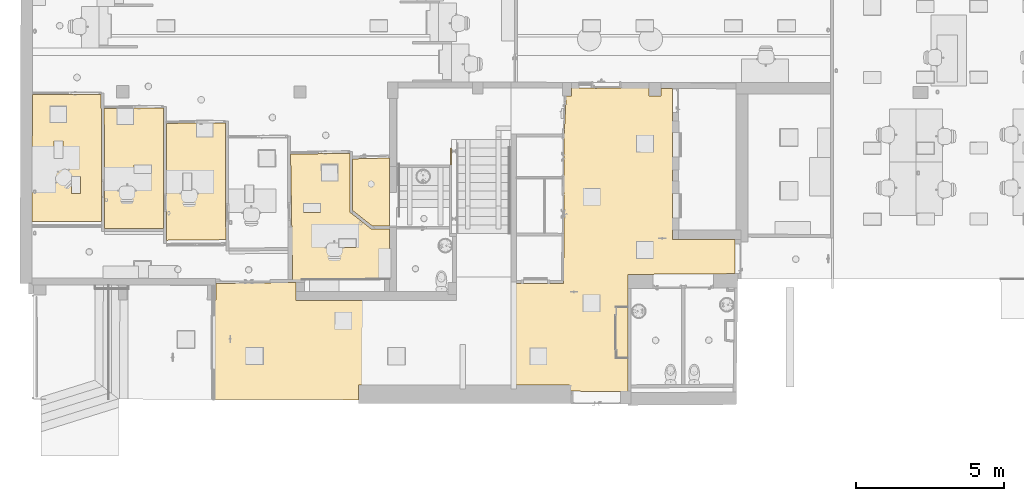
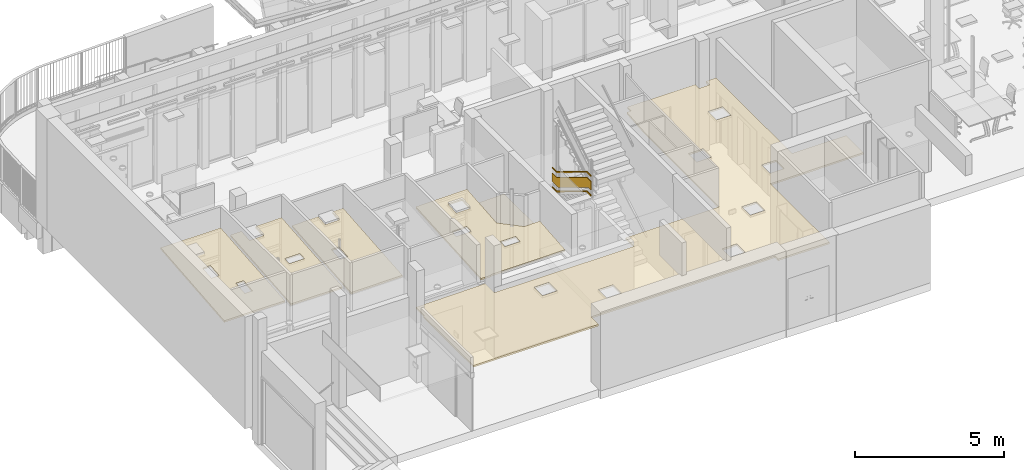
# One storey, part 58 of 128: 6 coverings, 1 railing, 1 element without a shape of its own.
"""IFC2X3 building model written with IfcOpenShell, lengths in metres."""

from ifc_helpers import new_model, entity, si_unit, converted_unit, derived_unit, direction, frame, origin, place, context, subcontext, project, spatial, faceted_brep, material, material_list, layer, layer_set, layer_usage, type_object, element, aggregate, save


model = new_model("IFC2X3")

# Units and contexts
model_context = context("Model", 3, precision=1e-05, world=origin(), true_north=direction((6.123031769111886e-17, 1.0)))
body_context = subcontext(model_context, "Body", "Model", "MODEL_VIEW")
ifc_project = project(units=[si_unit("LENGTHUNIT", "METRE"), si_unit("AREAUNIT", "SQUARE_METRE"), converted_unit("PLANEANGLEUNIT", "DEGREE", entity("IfcPlaneAngleMeasure", 0.017453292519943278), si_unit("PLANEANGLEUNIT", "RADIAN"), dimensions=[0, 0, 0, 0, 0, 0, 0]), derived_unit("THERMALTRANSMITTANCEUNIT", [(si_unit("MASSUNIT", "GRAM", prefix="KILO"), 1), (si_unit("THERMODYNAMICTEMPERATUREUNIT", "KELVIN"), -1), (si_unit("TIMEUNIT", "SECOND"), -3)])], contexts=[model_context])

# Site, building, storey
site_placement = place(None, origin())
site = spatial("IfcSite", under=ifc_project, at=site_placement, Name="Default", CompositionType="ELEMENT")
building_placement = place(site_placement, origin())
building = spatial("IfcBuilding", under=site, at=building_placement, CompositionType="ELEMENT")
storey_placement = place(building_placement, origin())
storey = spatial("IfcBuildingStorey", under=building, at=storey_placement, Name="00_RDC CAF", CompositionType="ELEMENT", Elevation=2.4982504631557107e-13)

# Coverings
ifc_material_1 = material(Name="ARC - FP - Blanc")
ifc_layer_1 = layer(ifc_material_1, 0.02)
ifc_material_2 = material(Name="ARC - FP - Trame 600 x 600")
ifc_layer_2 = layer(ifc_material_2, 0.05)
ifc_layer_set = layer_set([ifc_layer_1, ifc_layer_2], Name="Plafond composé:FP_Dalle-600X600_70mm")
ifc_layer_usage_1 = layer_usage(ifc_layer_set, "AXIS3", "NEGATIVE", 0.07)
covering_type = type_object("IfcCoveringType", Name="Plafond composé:FP_Dalle-600X600_70mm", PredefinedType="CEILING")
covering_1_placement = place(storey_placement, frame((6.666784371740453, 132.16264719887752, 2.954349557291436)))
element("IfcCovering", 1, at=covering_1_placement, inside=storey, type_object=covering_type, material=ifc_layer_usage_1, Name="Plafond composé:FP_Dalle-600X600_70mm", ObjectType="Plafond composé:FP_Dalle-600X600_70mm", PredefinedType="CEILING", context=body_context, shape_type="Brep", body=[
    faceted_brep([(2.3535247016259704, 0.0, 0.07029960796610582), (2.3417893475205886, 4.294149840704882, 0.4567730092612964), (0.012469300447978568, 4.301870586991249, 0.45745136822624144), (0.0, 0.0, 0.07028292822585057), (0.7410134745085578, 2.7300740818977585, 0.3159948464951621), (1.0410134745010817, 2.7300738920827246, 0.31599695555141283), (1.041013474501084, 2.1424489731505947, 0.2631107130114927), (0.7410134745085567, 2.1424491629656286, 0.26310860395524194), (1.3410134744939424, 0.9472791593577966, 0.1555475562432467), (1.3410134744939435, 1.5349040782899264, 0.2084337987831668), (1.6410134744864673, 1.5349038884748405, 0.20843590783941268), (1.6410134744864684, 0.9472789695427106, 0.15554966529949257), (2.3417893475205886, 4.294149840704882, 0.38649008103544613), (2.3535247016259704, 0.0, 1.6679740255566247e-05), (0.0, 0.0, 0.0), (0.012469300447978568, 4.301870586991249, 0.3871684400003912), (1.0410139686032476, 2.7363485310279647, 0.246278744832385), (0.7410139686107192, 2.7363487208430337, 0.2462766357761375), (0.7410139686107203, 2.148723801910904, 0.1933903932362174), (1.0410139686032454, 2.148723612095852, 0.19339250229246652), (1.3410139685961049, 1.5411787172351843, 0.13871558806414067), (1.341013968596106, 0.9535537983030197, 0.0858293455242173), (1.641013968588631, 0.9535536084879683, 0.08583145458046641), (1.641013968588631, 1.5411785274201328, 0.13871769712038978)], [[[0, 1, 2, 3], [4, 5, 6, 7], [8, 9, 10, 11]], [[12, 13, 14, 15], [16, 17, 18, 19], [20, 21, 22, 23]], [[1, 0, 13, 12]], [[2, 1, 12, 15]], [[3, 2, 15, 14]], [[0, 3, 14, 13]], [[4, 17, 16, 5]], [[17, 4, 7, 18]], [[5, 16, 19, 6]], [[18, 7, 6, 19]], [[8, 21, 20, 9]], [[9, 20, 23, 10]], [[10, 23, 22, 11]], [[21, 8, 11, 22]]]),
])
ifc_layer_usage_2 = layer_usage(ifc_layer_set, "AXIS3", "NEGATIVE", 0.07)
covering_2_placement = place(storey_placement, frame((9.109854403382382, 131.9222253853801, 2.93251475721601)))
element("IfcCovering", 2, at=covering_2_placement, inside=storey, type_object=covering_type, material=ifc_layer_usage_2, Name="Plafond composé:FP_Dalle-600X600_70mm", ObjectType="Plafond composé:FP_Dalle-600X600_70mm", PredefinedType="CEILING", context=body_context, shape_type="Brep", body=[
    faceted_brep([(0.0, 4.06608592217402, 0.4367243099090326), (0.011101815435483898, 0.003757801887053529, 0.07111341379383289), (2.0126055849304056, 0.0, 0.07028292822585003), (2.001438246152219, 4.086304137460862, 0.4380516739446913), (0.9868035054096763, 4.076054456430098, 0.4373787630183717), (0.986754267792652, 3.529637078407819, 0.38820139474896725), (0.4367542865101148, 3.5296741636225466, 0.3883400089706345), (0.4368030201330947, 4.070498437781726, 0.437013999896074), (1.6059716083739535, 1.8650399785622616, 0.23823591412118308), (1.015971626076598, 1.8650270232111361, 0.23837986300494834), (1.0159716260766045, 2.163819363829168, 0.26527107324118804), (1.6059716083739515, 2.16383231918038, 0.2651271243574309), (0.011101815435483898, 0.003757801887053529, 0.0008304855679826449), (0.0, 4.06608592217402, 0.36644138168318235), (0.4367853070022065, 4.070498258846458, 0.3667310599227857), (0.4367371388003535, 3.5359487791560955, 0.31862179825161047), (0.9867371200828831, 3.5359116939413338, 0.31848318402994), (0.986785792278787, 4.076054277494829, 0.3670958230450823), (2.001438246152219, 4.086304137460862, 0.36776874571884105), (2.0126055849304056, 0.0, 0.0), (1.0159544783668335, 1.8713016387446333, 0.16866165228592), (1.605954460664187, 1.871314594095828, 0.16851770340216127), (1.6059544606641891, 2.1701069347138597, 0.19540891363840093), (1.0159544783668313, 2.170093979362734, 0.19555286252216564)], [[[0, 1, 2, 3, 4, 5, 6, 7], [8, 9, 10, 11]], [[12, 13, 14, 15, 16, 17, 18, 19], [20, 21, 22, 23]], [[1, 0, 13, 12]], [[2, 1, 12, 19]], [[3, 2, 19, 18]], [[13, 0, 7, 14]], [[5, 16, 15, 6]], [[6, 15, 14, 7]], [[16, 5, 4, 17]], [[8, 21, 20, 9]], [[9, 20, 23, 10]], [[10, 23, 22, 11]], [[21, 8, 11, 22]], [[3, 18, 17, 4]]]),
])
ifc_layer_usage_3 = layer_usage(ifc_layer_set, "AXIS3", "NEGATIVE", 0.07)
covering_3_placement = place(storey_placement, frame((17.518978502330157, 132.00700605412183, 2.619999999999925)))
element("IfcCovering", 3, at=covering_3_placement, inside=storey, type_object=covering_type, material=ifc_layer_usage_3, Name="Plafond composé:FP_Dalle-600X600_70mm", ObjectType="Plafond composé:FP_Dalle-600X600_70mm", PredefinedType="CEILING", context=body_context, shape_type="Brep", body=[
    faceted_brep([(1.251735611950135, 2.3102790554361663, 0.07000000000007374), (0.0, 2.277970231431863, 0.07000000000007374), (0.0, 0.5291632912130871, 0.07000000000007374), (0.669347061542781, 0.0, 0.07000000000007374), (1.2517356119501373, 0.008742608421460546, 0.07000000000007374), (0.0, 0.5291632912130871, 0.0), (0.5967846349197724, 1.3212251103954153, 0.0), (0.6252547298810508, 1.3174769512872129, 0.0), (0.5702547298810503, 1.3322141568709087, 0.0), (0.669347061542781, 0.0, 0.0), (0.5474729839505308, 1.3496952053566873, 0.0), (0.529991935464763, 1.3724769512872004, 0.0), (0.5190028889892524, 1.3990068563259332, 0.0), (0.5152547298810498, 1.4274769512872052, 0.0), (0.0, 2.277970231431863, 0.0), (0.5190028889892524, 1.455947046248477, 0.0), (0.529991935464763, 1.48247695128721, 0.0), (0.5474729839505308, 1.5052586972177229, 0.0), (0.5702547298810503, 1.5227397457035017, 0.0), (0.5967846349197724, 1.5337287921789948, 0.0), (0.6252547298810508, 1.5374769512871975, 0.0), (1.251735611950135, 2.3102790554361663, 0.0), (0.653724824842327, 1.5337287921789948, 0.0), (0.6802547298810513, 1.5227397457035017, 0.0), (0.7030364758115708, 1.5052586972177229, 0.0), (0.7205175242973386, 1.48247695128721, 0.0), (0.7315065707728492, 1.455947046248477, 0.0), (0.7352547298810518, 1.4274769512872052, 0.0), (0.7315065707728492, 1.3990068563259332, 0.0), (1.2517356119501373, 0.008742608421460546, 0.0), (0.6802547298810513, 1.3322141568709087, 0.0), (0.7030364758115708, 1.3496952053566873, 0.0), (0.7205175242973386, 1.3724769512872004, 0.0), (0.653724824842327, 1.3212251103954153, 0.0), (0.6802547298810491, 1.3322141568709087, 0.04999999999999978), (0.653724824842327, 1.3212251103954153, 0.04999999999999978), (0.6252547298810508, 1.3174769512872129, 0.04999999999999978), (0.5967846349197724, 1.3212251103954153, 0.04999999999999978), (0.5702547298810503, 1.3322141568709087, 0.04999999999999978), (0.5474729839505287, 1.3496952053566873, 0.04999999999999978), (0.5299919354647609, 1.3724769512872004, 0.04999999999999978), (0.5190028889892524, 1.3990068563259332, 0.04999999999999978), (0.5152547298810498, 1.4274769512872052, 0.04999999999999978), (0.5190028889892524, 1.455947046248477, 0.04999999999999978), (0.5299919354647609, 1.48247695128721, 0.04999999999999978), (0.5474729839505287, 1.5052586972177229, 0.04999999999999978), (0.5702547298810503, 1.5227397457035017, 0.04999999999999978), (0.5967846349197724, 1.5337287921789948, 0.04999999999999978), (0.6252547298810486, 1.5374769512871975, 0.04999999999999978), (0.653724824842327, 1.5337287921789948, 0.04999999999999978), (0.6802547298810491, 1.5227397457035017, 0.04999999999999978), (0.7030364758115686, 1.5052586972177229, 0.04999999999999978), (0.7205175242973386, 1.48247695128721, 0.04999999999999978), (0.731506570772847, 1.455947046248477, 0.04999999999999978), (0.7352547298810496, 1.4274769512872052, 0.04999999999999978), (0.731506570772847, 1.3990068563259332, 0.04999999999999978), (0.7205175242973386, 1.3724769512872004, 0.04999999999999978), (0.7030364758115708, 1.3496952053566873, 0.04999999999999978)], [[[0, 1, 2, 3, 4]], [[5, 6, 7]], [[6, 5, 8]], [[5, 7, 9]], [[10, 8, 5]], [[11, 10, 5]], [[12, 11, 5]], [[5, 13, 12]], [[13, 5, 14]], [[15, 13, 14]], [[16, 15, 14]], [[14, 17, 16]], [[17, 14, 18]], [[19, 18, 14]], [[14, 20, 19]], [[20, 14, 21]], [[22, 20, 21]], [[21, 23, 22]], [[23, 21, 24]], [[25, 24, 21]], [[25, 21, 26]], [[27, 26, 21]], [[27, 21, 28]], [[29, 28, 21]], [[29, 9, 30]], [[30, 31, 29]], [[32, 28, 29]], [[31, 32, 29]], [[33, 9, 7]], [[30, 9, 33]], [[2, 1, 14, 5]], [[3, 2, 5, 9]], [[4, 3, 9, 29]], [[0, 4, 29, 21]], [[1, 0, 21, 14]], [[34, 35, 36, 37, 38, 39, 40, 41, 42, 43, 44, 45, 46, 47, 48, 49, 50, 51, 52, 53, 54, 55, 56, 57]], [[42, 13, 15, 43]], [[43, 15, 16, 44]], [[46, 45, 17, 18]], [[17, 45, 44, 16]], [[47, 46, 18, 19]], [[47, 19, 20, 48]], [[48, 20, 22, 49]], [[49, 22, 23, 50]], [[24, 51, 50, 23]], [[25, 52, 51, 24]], [[27, 54, 53, 26]], [[25, 26, 53, 52]], [[54, 27, 28, 55]], [[55, 28, 32, 56]], [[34, 57, 31, 30]], [[31, 57, 56, 32]], [[35, 34, 30, 33]], [[35, 33, 7, 36]], [[6, 37, 36, 7]], [[41, 40, 11, 12]], [[39, 10, 11, 40]], [[41, 12, 13, 42]], [[8, 38, 37, 6]], [[8, 10, 39, 38]]]),
])
ifc_layer_usage_4 = layer_usage(ifc_layer_set, "AXIS3", "NEGATIVE", 0.07)
covering_4_placement = place(storey_placement, frame((15.41532972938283, 130.18269728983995, 2.800552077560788)))
element("IfcCovering", 4, at=covering_4_placement, inside=storey, type_object=covering_type, material=ifc_layer_usage_4, Name="Plafond composé:FP_Dalle-600X600_70mm", ObjectType="Plafond composé:FP_Dalle-600X600_70mm", PredefinedType="CEILING", context=body_context, shape_type="Brep", body=[
    faceted_brep([(2.0036487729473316, 4.292260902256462, 0.45658640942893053), (0.0, 4.262650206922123, 0.4539214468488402), (0.07115374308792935, 0.0, 0.07028292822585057), (0.4418615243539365, 0.002326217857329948, 0.07049228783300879), (0.4418615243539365, 0.02633908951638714, 0.07265344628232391), (3.355384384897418, 0.04336298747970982, 0.07418559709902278), (3.355384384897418, 1.7330401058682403, 0.22625653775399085), (2.7389035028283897, 1.7237857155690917, 0.2254236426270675), (2.0036487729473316, 2.3050533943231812, 0.27773773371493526), (2.221903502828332, 1.097122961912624, 0.1690239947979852), (1.631903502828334, 1.0971229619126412, 0.1690239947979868), (1.6319035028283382, 1.3959152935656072, 0.19591530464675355), (2.221903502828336, 1.3959152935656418, 0.1959153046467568), (1.0205922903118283, 2.2935982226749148, 0.2767067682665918), (0.4305922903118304, 2.2935982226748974, 0.2767067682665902), (0.4305922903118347, 2.5923905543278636, 0.30359807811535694), (1.0205922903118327, 2.592390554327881, 0.30359807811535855), (1.047259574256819, 3.3611943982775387, 0.3727904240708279), (1.0458088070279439, 3.9089784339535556, 0.4220909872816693), (1.5958068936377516, 3.910423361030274, 0.4222210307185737), (1.597257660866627, 3.3626393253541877, 0.3729204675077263), (0.0, 4.262650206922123, 0.38363851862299), (2.0036487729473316, 4.292260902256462, 0.3863034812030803), (2.0036487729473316, 2.3050533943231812, 0.20745480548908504), (2.7389035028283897, 1.7237857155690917, 0.15514071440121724), (3.355384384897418, 1.7330401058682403, 0.1559736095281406), (3.355384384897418, 0.04336298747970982, 0.0039026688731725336), (0.4418615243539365, 0.02633908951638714, 0.0023705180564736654), (0.4418615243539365, 0.002326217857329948, 0.00020935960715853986), (0.07115374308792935, 0.0, 0.0), (1.631903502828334, 1.1033976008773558, 0.0993057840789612), (2.22190350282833, 1.1033976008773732, 0.09930578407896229), (2.2219035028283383, 1.4021899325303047, 0.12619709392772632), (1.6319035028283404, 1.4021899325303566, 0.1261970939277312), (0.4305922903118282, 2.2998728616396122, 0.206988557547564), (1.0205922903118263, 2.2998728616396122, 0.206988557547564), (1.0205922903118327, 2.598665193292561, 0.23387986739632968), (0.4305922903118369, 2.5986651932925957, 0.23387986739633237), (1.0458088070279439, 3.915253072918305, 0.35237277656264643), (1.0472595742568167, 3.367469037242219, 0.30307221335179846), (1.5972576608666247, 3.36891396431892, 0.3032022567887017), (1.5958068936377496, 3.9166979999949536, 0.3525028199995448)], [[[0, 1, 2, 3, 4, 5, 6, 7, 8], [9, 10, 11, 12], [13, 14, 15, 16], [17, 18, 19, 20]], [[21, 22, 23, 24, 25, 26, 27, 28, 29], [30, 31, 32, 33], [34, 35, 36, 37], [38, 39, 40, 41]], [[1, 0, 22, 21]], [[2, 1, 21, 29]], [[3, 2, 29, 28]], [[5, 4, 27, 26]], [[6, 5, 26, 25]], [[7, 6, 25, 24]], [[8, 7, 24, 23]], [[0, 8, 23, 22]], [[9, 31, 30, 10]], [[10, 30, 33, 11]], [[11, 33, 32, 12]], [[31, 9, 12, 32]], [[13, 35, 34, 14]], [[14, 34, 37, 15]], [[15, 37, 36, 16]], [[35, 13, 16, 36]], [[17, 39, 38, 18]], [[18, 38, 41, 19]], [[19, 41, 40, 20]], [[39, 17, 20, 40]], [[4, 3, 28, 27]]]),
])
ifc_layer_usage_5 = layer_usage(ifc_layer_set, "AXIS3", "NEGATIVE", 0.07)
covering_5_placement = place(storey_placement, frame((11.212733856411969, 131.53194031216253, 2.8970224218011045)))
element("IfcCovering", 5, at=covering_5_placement, inside=storey, type_object=covering_type, material=ifc_layer_usage_5, Name="Plafond composé:FP_Dalle-600X600_70mm", ObjectType="Plafond composé:FP_Dalle-600X600_70mm", PredefinedType="CEILING", context=body_context, shape_type="Brep", body=[
    faceted_brep([(2.0110597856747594, 0.019555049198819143, 0.0720428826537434), (1.9973862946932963, 3.975295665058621, 0.4280595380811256), (1.5751580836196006, 3.97103038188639, 0.4276756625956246), (1.57521402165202, 3.4940415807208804, 0.3847466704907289), (1.0252140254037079, 3.4939775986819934, 0.384740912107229), (1.0251587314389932, 3.9654743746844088, 0.42717562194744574), (0.0, 3.9551183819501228, 0.4262435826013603), (0.010808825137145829, 0.0, 0.07028292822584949), (0.5550401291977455, 1.6848881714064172, 0.2219228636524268), (0.5550401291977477, 2.2725130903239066, 0.2748091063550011), (0.8550401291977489, 2.272513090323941, 0.27480910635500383), (0.8550401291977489, 1.6848881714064, 0.22192286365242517), (1.9973862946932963, 3.975295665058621, 0.3577766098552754), (2.0110597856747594, 0.019555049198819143, 0.001759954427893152), (0.010808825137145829, 0.0, 0.0), (0.0, 3.9551183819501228, 0.35596065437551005), (1.0251594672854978, 3.9654743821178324, 0.35689269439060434), (1.02521402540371, 3.500252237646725, 0.31502270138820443), (1.5752140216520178, 3.500316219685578, 0.31502845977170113), (1.5751588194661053, 3.971030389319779, 0.35739273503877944), (0.5550401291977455, 2.2787877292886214, 0.20509089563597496), (0.5550401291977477, 1.6911628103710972, 0.15220465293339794), (0.8550401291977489, 1.6911628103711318, 0.15220465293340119), (0.8550401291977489, 2.2787877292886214, 0.20509089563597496)], [[[0, 1, 2, 3, 4, 5, 6, 7], [8, 9, 10, 11]], [[12, 13, 14, 15, 16, 17, 18, 19], [20, 21, 22, 23]], [[1, 0, 13, 12]], [[1, 12, 19, 2]], [[8, 21, 20, 9]], [[9, 20, 23, 10]], [[10, 23, 22, 11]], [[21, 8, 11, 22]], [[3, 18, 17, 4]], [[4, 17, 16, 5]], [[18, 3, 2, 19]], [[7, 6, 15, 14]], [[0, 7, 14, 13]], [[16, 15, 6, 5]]]),
])
ifc_layer_usage_6 = layer_usage(ifc_layer_set, "AXIS3", "NEGATIVE", 0.07)
covering_6_placement = place(storey_placement, frame((12.856391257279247, 126.13424016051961, 2.5999999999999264)))
element("IfcCovering", 6, at=covering_6_placement, inside=storey, type_object=covering_type, material=ifc_layer_usage_6, Name="Plafond composé:FP_Dalle-600X600_70mm", ObjectType="Plafond composé:FP_Dalle-600X600_70mm", PredefinedType="CEILING", context=body_context, shape_type="Brep", body=[
    faceted_brep([(4.850788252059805, 0.5048378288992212, 0.07000000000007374), (11.988999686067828, 0.4975189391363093, 0.07000000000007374), (11.988786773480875, 0.2898624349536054, 0.07000000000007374), (13.971984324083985, 0.28489793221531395, 0.07000000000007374), (13.971984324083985, 4.241648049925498, 0.07000000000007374), (17.59187433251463, 4.266465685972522, 0.07000000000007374), (17.591874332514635, 5.421281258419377, 0.07000000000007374), (15.489352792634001, 5.421281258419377, 0.07000000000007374), (15.489352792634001, 10.529221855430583, 0.07000000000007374), (15.091258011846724, 10.529221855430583, 0.07000000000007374), (15.090399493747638, 10.280612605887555, 0.07000000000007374), (14.690383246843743, 10.281993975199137, 0.07000000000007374), (14.691278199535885, 10.541153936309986, 0.07000000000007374), (12.0582510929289, 10.541153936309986, 0.07000000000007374), (12.0582510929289, 10.278544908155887, 0.07000000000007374), (11.885674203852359, 10.278544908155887, 0.07000000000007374), (11.818351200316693, 8.993945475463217, 0.07000000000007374), (11.799054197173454, 3.933999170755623, 0.07000000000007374), (8.17198780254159, 3.9339991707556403, 0.07000000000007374), (8.17198780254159, 3.3561157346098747, 0.07000000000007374), (2.7508414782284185, 3.3561157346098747, 0.07000000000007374), (2.7508414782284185, 3.972236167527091, 0.07000000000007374), (0.04123992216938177, 3.9339295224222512, 0.07000000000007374), (0.039740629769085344, 3.370335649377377, 0.07000000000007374), (0.0, 3.370441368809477, 0.07000000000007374), (0.0, 0.012141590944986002, 0.07000000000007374), (4.8502706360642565, 0.0, 0.07000000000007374), (4.06386424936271, 2.396175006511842, 0.07000000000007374), (4.0644384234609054, 2.956174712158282, 0.07000000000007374), (4.624438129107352, 2.9556005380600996, 0.07000000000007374), (4.6238639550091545, 2.3956008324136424, 0.07000000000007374), (5.86263293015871, 1.194330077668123, 0.07000000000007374), (5.863207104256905, 1.7543297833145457, 0.07000000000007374), (6.423206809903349, 1.753755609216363, 0.07000000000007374), (6.4226326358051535, 1.1937559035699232, 0.07000000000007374), (10.66263040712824, 1.1894085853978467, 0.07000000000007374), (10.663204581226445, 1.7494082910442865, 0.07000000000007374), (11.223204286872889, 1.7488341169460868, 0.07000000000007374), (11.222630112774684, 1.188834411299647, 0.07000000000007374), (12.46447502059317, 2.9875620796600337, 0.07000000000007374), (12.46504919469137, 3.5475617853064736, 0.07000000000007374), (13.025048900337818, 3.546987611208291, 0.07000000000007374), (13.024474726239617, 2.986987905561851, 0.07000000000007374), (12.468166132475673, 6.587553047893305, 0.07000000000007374), (12.468740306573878, 7.147552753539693, 0.07000000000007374), (13.028740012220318, 7.146978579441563, 0.07000000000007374), (13.028165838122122, 6.586978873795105, 0.07000000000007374), (14.270010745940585, 8.385706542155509, 0.07000000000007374), (14.27058492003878, 8.94570624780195, 0.07000000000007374), (14.830584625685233, 8.94513207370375, 0.07000000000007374), (14.830010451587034, 8.38513236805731, 0.07000000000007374), (14.266319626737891, 4.785708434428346, 0.07000000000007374), (14.266893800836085, 5.345708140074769, 0.07000000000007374), (14.82689350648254, 5.345133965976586, 0.07000000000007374), (14.826319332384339, 4.785134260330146, 0.07000000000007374), (11.988999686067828, 0.4975189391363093, 0.0), (4.850788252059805, 0.5048378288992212, 0.0), (4.8502706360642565, 0.0, 0.0), (0.0, 0.012141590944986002, 0.0), (0.0, 3.370441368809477, 0.0), (0.03974062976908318, 3.3703356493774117, 0.0), (0.041239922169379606, 3.933929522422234, 0.0), (2.7508414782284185, 3.972236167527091, 0.0), (2.7508414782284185, 3.3561157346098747, 0.0), (8.17198780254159, 3.3561157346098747, 0.0), (8.17198780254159, 3.9339991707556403, 0.0), (11.799054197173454, 3.933999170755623, 0.0), (11.818351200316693, 8.993945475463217, 0.0), (11.885674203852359, 10.278544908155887, 0.0), (12.0582510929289, 10.278544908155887, 0.0), (12.0582510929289, 10.541153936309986, 0.0), (14.691278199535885, 10.541153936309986, 0.0), (14.690383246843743, 10.281993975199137, 0.0), (15.090399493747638, 10.280612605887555, 0.0), (15.091258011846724, 10.529221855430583, 0.0), (15.489352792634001, 10.529221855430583, 0.0), (15.489352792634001, 5.421281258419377, 0.0), (17.591874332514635, 5.421281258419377, 0.0), (17.59187433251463, 4.266465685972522, 0.0), (13.971984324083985, 4.241648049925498, 0.0), (13.971984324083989, 0.28489793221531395, 0.0), (11.988786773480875, 0.2898624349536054, 0.0), (4.064438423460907, 2.956174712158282, 0.0), (4.06386424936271, 2.396175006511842, 0.0), (4.6238639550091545, 2.3956008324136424, 0.0), (4.624438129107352, 2.9556005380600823, 0.0), (5.86320710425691, 1.7543297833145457, 0.0), (5.86263293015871, 1.1943300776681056, 0.0), (6.4226326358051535, 1.1937559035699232, 0.0), (6.4232068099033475, 1.753755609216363, 0.0), (10.663204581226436, 1.7494082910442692, 0.0), (10.662630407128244, 1.1894085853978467, 0.0), (11.222630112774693, 1.188834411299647, 0.0), (11.223204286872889, 1.7488341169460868, 0.0), (12.465049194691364, 3.5475617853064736, 0.0), (12.46447502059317, 2.987562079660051, 0.0), (13.024474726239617, 2.986987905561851, 0.0), (13.025048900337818, 3.546987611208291, 0.0), (1.0526252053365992, 1.1892618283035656, 0.0), (1.6326249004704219, 1.1886671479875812, 0.0), (1.633219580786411, 1.7686668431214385, 0.0), (1.0532198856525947, 1.7692615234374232, 0.0), (12.468740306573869, 7.147552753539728, 0.0), (12.468166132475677, 6.587553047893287, 0.0), (13.028165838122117, 6.586978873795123, 0.0), (13.028740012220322, 7.146978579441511, 0.0), (14.27058492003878, 8.94570624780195, 0.0), (14.270010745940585, 8.385706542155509, 0.0), (14.830010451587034, 8.38513236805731, 0.0), (14.830584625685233, 8.94513207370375, 0.0), (14.266893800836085, 5.345708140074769, 0.0), (14.266319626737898, 4.785708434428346, 0.0), (14.826319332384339, 4.785134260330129, 0.0), (14.826893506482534, 5.345133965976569, 0.0), (1.6326249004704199, 1.1886671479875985, 0.029999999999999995), (1.0526252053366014, 1.189261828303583, 0.029999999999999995), (1.0532198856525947, 1.7692615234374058, 0.029999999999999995), (1.633219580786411, 1.7686668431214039, 0.029999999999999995)], [[[0, 1, 2, 3, 4, 5, 6, 7, 8, 9, 10, 11, 12, 13, 14, 15, 16, 17, 18, 19, 20, 21, 22, 23, 24, 25, 26], [27, 28, 29, 30], [31, 32, 33, 34], [35, 36, 37, 38], [39, 40, 41, 42], [43, 44, 45, 46], [47, 48, 49, 50], [51, 52, 53, 54]], [[55, 56, 57, 58, 59, 60, 61, 62, 63, 64, 65, 66, 67, 68, 69, 70, 71, 72, 73, 74, 75, 76, 77, 78, 79, 80, 81], [82, 83, 84, 85], [86, 87, 88, 89], [90, 91, 92, 93], [94, 95, 96, 97], [98, 99, 100, 101], [102, 103, 104, 105], [106, 107, 108, 109], [110, 111, 112, 113]], [[1, 0, 56, 55]], [[4, 3, 80, 79]], [[5, 4, 79, 78]], [[6, 5, 78, 77]], [[7, 6, 77, 76]], [[8, 7, 76, 75]], [[13, 12, 71, 70]], [[14, 13, 70, 69]], [[15, 14, 69, 68]], [[16, 15, 68, 67]], [[18, 17, 66, 65]], [[19, 18, 65, 64]], [[20, 19, 64, 63]], [[21, 20, 63, 62]], [[21, 62, 61, 22]], [[27, 83, 82, 28]], [[28, 82, 85, 29]], [[29, 85, 84, 30]], [[83, 27, 30, 84]], [[31, 87, 86, 32]], [[32, 86, 89, 33]], [[33, 89, 88, 34]], [[87, 31, 34, 88]], [[35, 91, 90, 36]], [[36, 90, 93, 37]], [[37, 93, 92, 38]], [[91, 35, 38, 92]], [[39, 95, 94, 40]], [[40, 94, 97, 41]], [[41, 97, 96, 42]], [[95, 39, 42, 96]], [[114, 115, 116, 117]], [[115, 114, 99, 98]], [[116, 115, 98, 101]], [[117, 116, 101, 100]], [[114, 117, 100, 99]], [[43, 103, 102, 44]], [[44, 102, 105, 45]], [[45, 105, 104, 46]], [[103, 43, 46, 104]], [[47, 107, 106, 48]], [[48, 106, 109, 49]], [[49, 109, 108, 50]], [[107, 47, 50, 108]], [[51, 111, 110, 52]], [[52, 110, 113, 53]], [[53, 113, 112, 54]], [[111, 51, 54, 112]], [[2, 1, 55, 81]], [[3, 2, 81, 80]], [[26, 25, 58, 57]], [[0, 26, 57, 56]], [[9, 8, 75, 74]], [[10, 9, 74, 73]], [[11, 10, 73, 72]], [[12, 11, 72, 71]], [[17, 16, 67, 66]], [[58, 25, 24, 59]], [[23, 60, 59, 24]], [[60, 23, 22, 61]]]),
])

# Stair, railing
type_product = type_object("IfcTypeProduct", Name="Escalier assemblé:E_Escalier_Assemble_Béton 2")
stair_placement = place(storey_placement, origin())
stair = element("IfcStair", 7, at=stair_placement, inside=storey, type_object=type_product, Name="Escalier assemblé:Escalier", ObjectType="Escalier assemblé:E_Escalier_Assemble_Béton 2", ShapeType="NOTDEFINED")
ifc_material_3 = material(Name="STR - Acier")
ifc_material_4 = material(Name="ARC - Metal")
ifc_material_list = material_list([ifc_material_3, ifc_material_4])
railing_type = type_object("IfcRailingType", Name="Garde-corps:GC_1_lisse_40x30+Plein_900mm", PredefinedType="NOTDEFINED")
railing_placement = place(stair_placement, frame((20.820746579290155, 132.05348300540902, 2.011211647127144)))
railing = element("IfcRailing", 8, at=railing_placement, type_object=railing_type, material=ifc_material_list, Name="Garde-corps:GC_1_lisse_40x30+Plein_900mm", ObjectType="Garde-corps:GC_1_lisse_40x30+Plein_900mm", PredefinedType="NOTDEFINED", context=body_context, shape_type="Brep", body=[
    faceted_brep([(0.025775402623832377, 2.5999999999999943, 0.6056345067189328), (0.025775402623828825, 2.5999999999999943, 0.25563450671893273), (0.005775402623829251, 2.5999999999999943, 0.25563450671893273), (0.005775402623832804, 2.5999999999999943, 0.6056345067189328), (0.025775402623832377, 2.3100000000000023, 0.6056345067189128), (0.025775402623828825, 2.2120657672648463, 0.2556345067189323), (0.005775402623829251, 2.2120657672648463, 0.2556345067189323), (0.005775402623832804, 2.3100000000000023, 0.6056345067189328), (0.025775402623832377, 0.28000000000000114, 1.838172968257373), (0.025775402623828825, 0.18206576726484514, 1.488172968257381), (0.005775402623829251, 0.18206576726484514, 1.4881729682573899), (0.005775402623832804, 0.28000000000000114, 1.8381729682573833), (0.025775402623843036, 0.0, 1.838172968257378), (0.005775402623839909, 0.0, 1.838172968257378), (0.005775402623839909, 0.0, 1.4881729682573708), (0.025775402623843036, 0.0, 1.4881729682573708)], [[[0, 1, 2, 3]], [[1, 0, 4, 5]], [[2, 1, 5, 6]], [[3, 2, 6, 7]], [[0, 3, 7, 4]], [[5, 4, 8, 9]], [[6, 5, 9, 10]], [[7, 6, 10, 11]], [[4, 7, 11, 8]], [[12, 13, 14, 15]], [[9, 8, 12, 15]], [[10, 9, 15, 14]], [[11, 10, 14, 13]], [[8, 11, 13, 12]]]),
    faceted_brep([(0.001550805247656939, 2.5999999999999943, 0.050000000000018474), (0.031550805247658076, 2.5999999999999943, 0.050000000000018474), (0.03155080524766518, 2.5999999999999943, 0.0), (0.0015508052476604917, 2.5999999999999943, 0.0), (0.0015508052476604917, 2.3168177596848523, 0.05000000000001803), (0.031550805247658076, 2.3168177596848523, 0.05000000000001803), (0.03155080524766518, 2.3028271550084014, 0.0), (0.0015508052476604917, 2.3028271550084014, 0.0), (0.001550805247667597, 0.2868177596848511, 1.282538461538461), (0.031550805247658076, 0.2868177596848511, 1.2825384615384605), (0.03155080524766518, 0.27282715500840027, 1.2325384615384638), (0.0015508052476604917, 0.27282715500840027, 1.2325384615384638), (0.0015508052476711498, 0.0, 1.2825384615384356), (0.0015508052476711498, 0.0, 1.2325384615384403), (0.031550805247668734, 0.0, 1.2325384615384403), (0.031550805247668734, 0.0, 1.2825384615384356)], [[[0, 1, 2, 3]], [[1, 0, 4, 5]], [[2, 1, 5, 6]], [[3, 2, 6, 7]], [[0, 3, 7, 4]], [[5, 4, 8, 9]], [[6, 5, 9, 10]], [[7, 6, 10, 11]], [[4, 7, 11, 8]], [[12, 13, 14, 15]], [[9, 8, 12, 15]], [[10, 9, 15, 14]], [[11, 10, 14, 13]], [[8, 11, 13, 12]]]),
    faceted_brep([(0.030000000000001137, 2.5999999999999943, 0.8500000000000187), (0.030000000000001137, 2.5999999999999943, 0.800000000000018), (0.0, 2.5999999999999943, 0.800000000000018), (0.0, 2.5999999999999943, 0.8500000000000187), (0.030000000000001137, 2.3168177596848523, 0.8499999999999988), (0.030000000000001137, 2.3028271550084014, 0.8000000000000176), (0.0, 2.3028271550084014, 0.8000000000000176), (0.0, 2.3168177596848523, 0.8500000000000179), (0.030000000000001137, 0.2868177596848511, 2.0825384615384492), (0.030000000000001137, 0.27282715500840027, 2.0325384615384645), (0.0, 0.27282715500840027, 2.0325384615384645), (0.0, 0.2868177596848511, 2.0825384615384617), (0.030000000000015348, 0.0, 2.0825384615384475), (0.0, 0.0, 2.082538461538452), (0.0, 0.0, 2.032538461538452), (0.030000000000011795, 0.0, 2.0325384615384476)], [[[0, 1, 2, 3]], [[1, 0, 4, 5]], [[2, 1, 5, 6]], [[3, 2, 6, 7]], [[0, 3, 7, 4]], [[5, 4, 8, 9]], [[6, 5, 9, 10]], [[7, 6, 10, 11]], [[4, 7, 11, 8]], [[12, 13, 14, 15]], [[9, 8, 12, 15]], [[10, 9, 15, 14]], [[11, 10, 14, 13]], [[8, 11, 13, 12]]]),
])
aggregate(stair, [railing])

save(model, "model.ifc")
